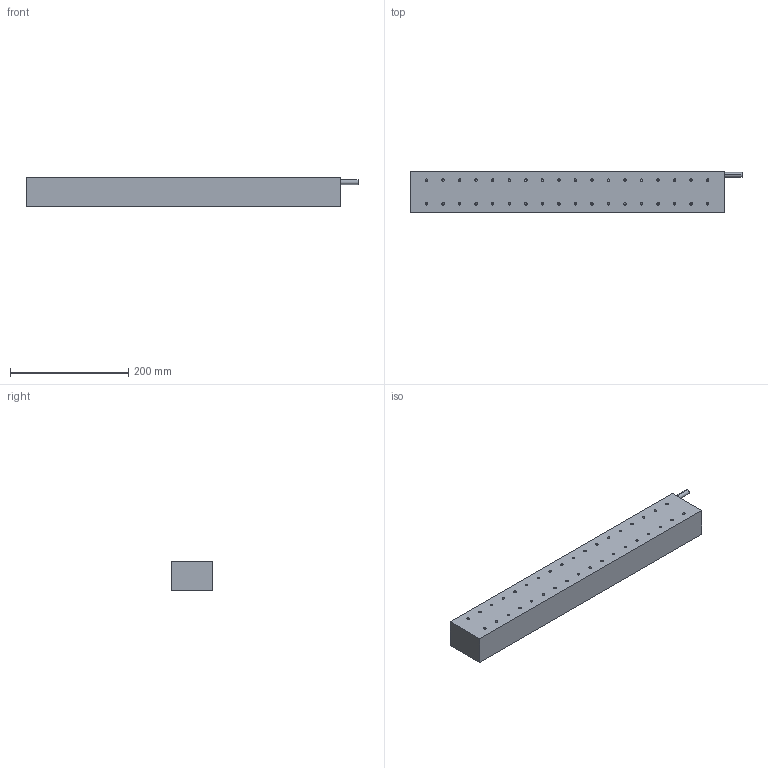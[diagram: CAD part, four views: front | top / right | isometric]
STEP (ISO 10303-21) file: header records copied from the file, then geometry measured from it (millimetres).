
FILE_DESCRIPTION (( 'STEP AP214' ), '1' );
FILE_NAME ('WKM50D雄赽.STEP', '2025-09-05T11:45:24', ( '' ), ( '' ), 'SwSTEP 2.0', 'SolidWorks 2016', '' );
FILE_SCHEMA (( 'AUTOMOTIVE_DESIGN' ));
Length unit declared in the file: millimetre
Products named in the file (1): WKM50D雄赽
Bounding box: 562 x 71 x 49.3 mm (x, y, z)
Volume: 1860714.6 mm3; surface area: 138449.4 mm2
Topology: 1 solids, 1 shells, 153 faces, 378 edges, 192 vertices
Faces by surface type: cylinder 74, cone 72, plane 7
Entity records: 4806 total; most frequent: DIRECTION 762, CARTESIAN_POINT 652, ORIENTED_EDGE 612, EDGE_CURVE 306, AXIS2_PLACEMENT_3D 302, VERTEX_POINT 192, EDGE_LOOP 190, VECTOR 158
